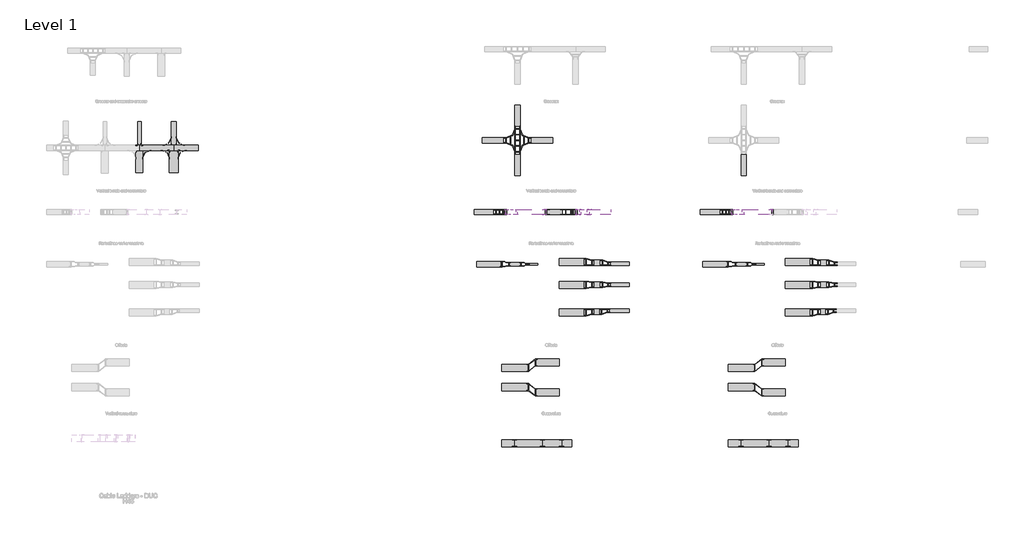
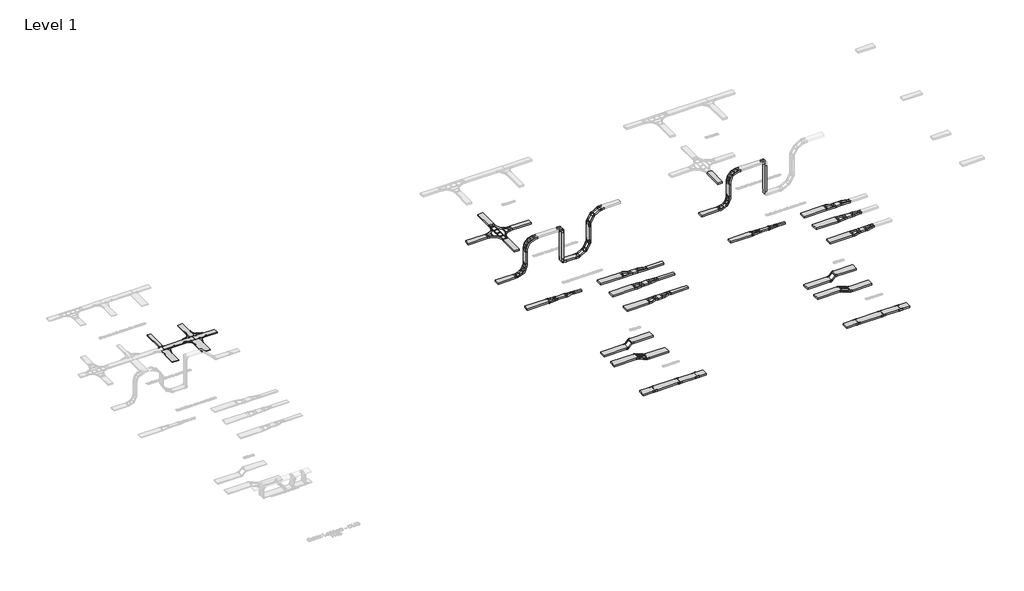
# One storey, part 15 of 106: 66 cable carrier fittings, 59 cable carrier segments.
"""IFC4 building model written with IfcOpenShell, lengths in millimetres."""

from ifc_helpers import new_model, si_unit, frame, origin, place, context, project, spatial, polyline, outline, extrude, transform, mapped, element, save
from components import cable_carrier_fitting_655502a1, cable_carrier_fitting_0f11f104, cable_carrier_fitting_a9217249, cable_carrier_fitting_d4fd6989, cable_carrier_fitting_737cec81, cable_carrier_fitting_2a48b0f8, cable_carrier_fitting_b442654d, cable_carrier_fitting_4f3da76f, cable_carrier_fitting_b51c3b06, cable_carrier_fitting_babf011b, cable_carrier_fitting_ac158406, cable_carrier_fitting_4c2027fa, cable_carrier_fitting_5ea65c1a, cable_carrier_fitting_8e776ff7, cable_carrier_fitting_f980dbfe, cable_carrier_fitting_f33f8219, cable_carrier_fitting_8b2eacbc, cable_carrier_fitting_82eef748, cable_carrier_fitting_c717f408, cable_carrier_fitting_2eae5a0e, cable_carrier_fitting_26a6f095, cable_carrier_fitting_3c9c408d, cable_carrier_fitting_4b9ec148, cable_carrier_fitting_75b1d624, cable_carrier_fitting_a95698cb, cable_carrier_fitting_566616c6

model = new_model("IFC4")

# Units and contexts
model_context = context("Model", 3, world=origin())
ifc_project = project(units=[si_unit("LENGTHUNIT", "METRE", prefix="MILLI")], contexts=[model_context])

# Site, building, storey
site = spatial("IfcSite", under=ifc_project)
building = spatial("IfcBuilding", under=site)
storey = spatial("IfcBuildingStorey", under=building, Name="Level 1", Elevation=0.0)

# Cable carrier fittings
placement = place(None, origin())
cable_carrier_fitting_shape = cable_carrier_fitting_655502a1(model_context)
element("IfcCableCarrierFitting", 1, ObjectType="BAKS_LD_CONN_Angle coupler bendable_LKU : LKUC_H45", at=placement, inside=storey, context=model_context, shape_type="MappedRepresentation", body=[
    mapped(cable_carrier_fitting_shape, transform((56950.9231102, 60020.7686574, 32.5), x_axis=(-1.0, 0.0, 0.0), y_axis=(0.0, -1.0, 0.0), z_axis=(0.0, 0.0, 1.0))),
])
element("IfcCableCarrierFitting", 2, ObjectType="BAKS_LD_CONN_Angle coupler bendable_LKU : LKUC_H45", at=placement, inside=storey, context=model_context, shape_type="MappedRepresentation", body=[
    mapped(cable_carrier_fitting_shape, transform((56750.9231102, 60020.7686574, 32.5), x_axis=(0.0, -1.0, 0.0), y_axis=(1.0, 0.0, 0.0), z_axis=(0.0, 0.0, 1.0))),
])
element("IfcCableCarrierFitting", 3, ObjectType="BAKS_LD_CONN_Angle coupler bendable_LKU : LKUC_H45", at=placement, inside=storey, context=model_context, shape_type="MappedRepresentation", body=[
    mapped(cable_carrier_fitting_shape, transform((58562.2849338, 59720.7686574, 32.5), x_axis=(1.0, 0.0, 0.0), y_axis=(0.0, 1.0, 0.0), z_axis=(0.0, 0.0, 1.0))),
])
element("IfcCableCarrierFitting", 4, ObjectType="BAKS_LD_CONN_Angle coupler bendable_LKU : LKUC_H45", at=placement, inside=storey, context=model_context, shape_type="MappedRepresentation", body=[
    mapped(cable_carrier_fitting_shape, transform((59062.2849338, 59720.7686574, 32.5), x_axis=(0.0, 1.0, 0.0), y_axis=(-1.0, 0.0, 0.0), z_axis=(0.0, 0.0, 1.0))),
])
element("IfcCableCarrierFitting", 5, ObjectType="BAKS_LD_CONN_Angle coupler bendable_LKU : LKUC_H45", at=placement, inside=storey, context=model_context, shape_type="MappedRepresentation", body=[
    mapped(cable_carrier_fitting_shape, transform((58962.2849338, 60020.7686574, 30.0), x_axis=(-1.0, 0.0, 0.0), y_axis=(0.0, -1.0, 0.0), z_axis=(0.0, 0.0, 1.0))),
])
cable_carrier_fitting_2_shape = cable_carrier_fitting_0f11f104(model_context)
element("IfcCableCarrierFitting", 6, ObjectType="BAKS_LD_CONN_Addon connector_LDDK : LDDKP", at=placement, inside=storey, context=model_context, shape_type="MappedRepresentation", body=[
    mapped(cable_carrier_fitting_2_shape, transform((58562.2849338, 59720.7686574, 55.0), x_axis=(1.0, 0.0, 0.0), y_axis=(0.0, 1.0, 0.0), z_axis=(0.0, 0.0, 1.0))),
])
element("IfcCableCarrierFitting", 7, ObjectType="BAKS_LD_CONN_Addon connector_LDDK : LDDKP", at=placement, inside=storey, context=model_context, shape_type="MappedRepresentation", body=[
    mapped(cable_carrier_fitting_2_shape, transform((58962.2849338, 60020.7686574, 55.0), x_axis=(-1.0, 0.0, 0.0), y_axis=(0.0, -1.0, 0.0), z_axis=(0.0, 0.0, 1.0))),
])
cable_carrier_fitting_3_shape = cable_carrier_fitting_a9217249(model_context)
element("IfcCableCarrierFitting", 8, ObjectType="BAKS_LD_CONN_Addon connector_LDDK : LDDKP", at=placement, inside=storey, context=model_context, shape_type="MappedRepresentation", body=[
    mapped(cable_carrier_fitting_3_shape, transform((57050.9231102, 59720.7686574, 55.0), x_axis=(-1.0, 0.0, 0.0), y_axis=(0.0, -1.0, 0.0), z_axis=(0.0, 0.0, 1.0))),
])
element("IfcCableCarrierFitting", 9, ObjectType="BAKS_LD_CONN_Addon connector_LDDK : LDDKP", at=placement, inside=storey, context=model_context, shape_type="MappedRepresentation", body=[
    mapped(cable_carrier_fitting_3_shape, transform((59062.2849338, 59720.7686574, 55.0), x_axis=(-1.0, 0.0, 0.0), y_axis=(0.0, -1.0, 0.0), z_axis=(0.0, 0.0, 1.0))),
])
element("IfcCableCarrierFitting", 10, ObjectType="BAKS_LD_CONN_Addon connector_LDDK : LDDKP", at=placement, inside=storey, context=model_context, shape_type="MappedRepresentation", body=[
    mapped(cable_carrier_fitting_3_shape, transform((58662.2849338, 60020.7686574, 55.0), x_axis=(1.0, 0.0, 0.0), y_axis=(0.0, 1.0, 0.0), z_axis=(0.0, 0.0, 1.0))),
])
cable_carrier_fitting_4_shape = cable_carrier_fitting_d4fd6989(model_context)
element("IfcCableCarrierFitting", 11, ObjectType="BAKS_LD_CONN_Angle coupler bendable_LKU : LKUC_H45", at=placement, inside=storey, context=model_context, shape_type="MappedRepresentation", body=[
    mapped(cable_carrier_fitting_4_shape, transform((57050.9231102, 59720.7686574, 30.0), x_axis=(-1.0, 0.0, 0.0), y_axis=(0.0, -1.0, 0.0), z_axis=(0.0, 0.0, 1.0))),
])
element("IfcCableCarrierFitting", 12, ObjectType="BAKS_LD_CONN_Angle coupler bendable_LKU : LKUC_H45", at=placement, inside=storey, context=model_context, shape_type="MappedRepresentation", body=[
    mapped(cable_carrier_fitting_4_shape, transform((58662.2849338, 60020.7686574, 30.0), x_axis=(1.0, 0.0, 0.0), y_axis=(0.0, 1.0, 0.0), z_axis=(0.0, 0.0, 1.0))),
])
cable_carrier_fitting_5_shape = cable_carrier_fitting_737cec81(model_context)
element("IfcCableCarrierFitting", 13, ObjectType="BAKS_LDLS_CONN_Straight connector_LSSU : LSSUC_H100", at=placement, inside=storey, context=model_context, shape_type="MappedRepresentation", body=[
    mapped(cable_carrier_fitting_5_shape, transform((78235.3508196, 42822.0684511, 55.0), x_axis=(1.0, 0.0, 0.0), y_axis=(0.0, 1.0, 0.0), z_axis=(0.0, 0.0, 1.0))),
])
element("IfcCableCarrierFitting", 14, ObjectType="BAKS_LDLS_CONN_Straight connector_LSSU : LSSUC_H100", at=placement, inside=storey, context=model_context, shape_type="MappedRepresentation", body=[
    mapped(cable_carrier_fitting_5_shape, transform((79822.8508196, 42822.0684511, 55.0), x_axis=(1.0, 0.0, 0.0), y_axis=(0.0, 1.0, 0.0), z_axis=(0.0, 0.0, 1.0))),
])
element("IfcCableCarrierFitting", 15, ObjectType="BAKS_LDLS_CONN_Straight connector_LSSU : LSSUC_H100", at=placement, inside=storey, context=model_context, shape_type="MappedRepresentation", body=[
    mapped(cable_carrier_fitting_5_shape, transform((80915.3508196, 42822.0684511, 55.0), x_axis=(1.0, 0.0, 0.0), y_axis=(0.0, 1.0, 0.0), z_axis=(0.0, 0.0, 1.0))),
])
element("IfcCableCarrierFitting", 16, ObjectType="BAKS_LDLS_CONN_Straight connector_LSSU : LSSUC_H100", at=placement, inside=storey, context=model_context, shape_type="MappedRepresentation", body=[
    mapped(cable_carrier_fitting_5_shape, transform((91135.3508196, 42822.0684511, 55.0), x_axis=(1.0, 0.0, 0.0), y_axis=(0.0, 1.0, 0.0), z_axis=(0.0, 0.0, 1.0))),
])
element("IfcCableCarrierFitting", 17, ObjectType="BAKS_LDLS_CONN_Straight connector_LSSU : LSSUC_H100", at=placement, inside=storey, context=model_context, shape_type="MappedRepresentation", body=[
    mapped(cable_carrier_fitting_5_shape, transform((92722.8508196, 42822.0684511, 55.0), x_axis=(1.0, 0.0, 0.0), y_axis=(0.0, 1.0, 0.0), z_axis=(0.0, 0.0, 1.0))),
])
element("IfcCableCarrierFitting", 18, ObjectType="BAKS_LDLS_CONN_Straight connector_LSSU : LSSUC_H100", at=placement, inside=storey, context=model_context, shape_type="MappedRepresentation", body=[
    mapped(cable_carrier_fitting_5_shape, transform((93815.3508196, 42822.0684511, 55.0), x_axis=(1.0, 0.0, 0.0), y_axis=(0.0, 1.0, 0.0), z_axis=(0.0, 0.0, 1.0))),
])
cable_carrier_fitting_6_shape = cable_carrier_fitting_2a48b0f8(model_context)
element("IfcCableCarrierFitting", 19, ObjectType="BAKS_LDLS_CONN_Straight connector_LSSU : LSSUC_H100", at=placement, inside=storey, context=model_context, shape_type="MappedRepresentation", body=[
    mapped(cable_carrier_fitting_6_shape, transform((78235.3508196, 43222.0684511, 55.0), x_axis=(1.0, 0.0, 0.0), y_axis=(0.0, 1.0, 0.0), z_axis=(0.0, 0.0, 1.0))),
])
element("IfcCableCarrierFitting", 20, ObjectType="BAKS_LDLS_CONN_Straight connector_LSSU : LSSUC_H100", at=placement, inside=storey, context=model_context, shape_type="MappedRepresentation", body=[
    mapped(cable_carrier_fitting_6_shape, transform((79822.8508196, 43222.0684511, 55.0), x_axis=(1.0, 0.0, 0.0), y_axis=(0.0, 1.0, 0.0), z_axis=(0.0, 0.0, 1.0))),
])
element("IfcCableCarrierFitting", 21, ObjectType="BAKS_LDLS_CONN_Straight connector_LSSU : LSSUC_H100", at=placement, inside=storey, context=model_context, shape_type="MappedRepresentation", body=[
    mapped(cable_carrier_fitting_6_shape, transform((80915.3508196, 43222.0684511, 55.0), x_axis=(1.0, 0.0, 0.0), y_axis=(0.0, 1.0, 0.0), z_axis=(0.0, 0.0, 1.0))),
])
element("IfcCableCarrierFitting", 22, ObjectType="BAKS_LDLS_CONN_Straight connector_LSSU : LSSUC_H100", at=placement, inside=storey, context=model_context, shape_type="MappedRepresentation", body=[
    mapped(cable_carrier_fitting_6_shape, transform((91135.3508196, 43222.0684511, 55.0), x_axis=(1.0, 0.0, 0.0), y_axis=(0.0, 1.0, 0.0), z_axis=(0.0, 0.0, 1.0))),
])
element("IfcCableCarrierFitting", 23, ObjectType="BAKS_LDLS_CONN_Straight connector_LSSU : LSSUC_H100", at=placement, inside=storey, context=model_context, shape_type="MappedRepresentation", body=[
    mapped(cable_carrier_fitting_6_shape, transform((92722.8508196, 43222.0684511, 55.0), x_axis=(1.0, 0.0, 0.0), y_axis=(0.0, 1.0, 0.0), z_axis=(0.0, 0.0, 1.0))),
])
element("IfcCableCarrierFitting", 24, ObjectType="BAKS_LDLS_CONN_Straight connector_LSSU : LSSUC_H100", at=placement, inside=storey, context=model_context, shape_type="MappedRepresentation", body=[
    mapped(cable_carrier_fitting_6_shape, transform((93815.3508196, 43222.0684511, 55.0), x_axis=(1.0, 0.0, 0.0), y_axis=(0.0, 1.0, 0.0), z_axis=(0.0, 0.0, 1.0))),
])
cable_carrier_fitting_7_shape = cable_carrier_fitting_b442654d(model_context)
element("IfcCableCarrierFitting", 25, ObjectType="BAKS_LDLS_CONN_Univarsal connector reduction_LUS : LUS_H100", at=placement, inside=storey, context=model_context, shape_type="MappedRepresentation", body=[
    mapped(cable_carrier_fitting_7_shape, transform((77409.3823889, 53231.6579459, 55.0), x_axis=(1.0, 0.0, 0.0), y_axis=(0.0, 1.0, 0.0), z_axis=(0.0, 0.0, 1.0))),
])
element("IfcCableCarrierFitting", 26, ObjectType="BAKS_LDLS_CONN_Univarsal connector reduction_LUS : LUS_H100", at=placement, inside=storey, context=model_context, shape_type="MappedRepresentation", body=[
    mapped(cable_carrier_fitting_7_shape, transform((90309.3823889, 53231.6579459, 55.0), x_axis=(1.0, 0.0, 0.0), y_axis=(0.0, 1.0, 0.0), z_axis=(0.0, 0.0, 1.0))),
])
cable_carrier_fitting_8_shape = cable_carrier_fitting_4f3da76f(model_context)
element("IfcCableCarrierFitting", 27, ObjectType="BAKS_LDLS_CROSS_Horizontal cross over_CZDS : CZDSP_H100", at=placement, inside=storey, context=model_context, shape_type="MappedRepresentation", body=[
    mapped(cable_carrier_fitting_8_shape, transform((78394.8605695, 60296.344482, 55.0), x_axis=(0.0, 1.0, 0.0), y_axis=(-1.0, 0.0, 0.0), z_axis=(0.0, 0.0, 1.0))),
])
cable_carrier_fitting_9_shape = cable_carrier_fitting_b51c3b06(model_context)
element("IfcCableCarrierFitting", 28, ObjectType="BAKS_LDLS_BEND_Vertical bend 90deg internal_LWDS : LWDSC_H100", at=placement, inside=storey, context=model_context, shape_type="MappedRepresentation", body=[
    mapped(cable_carrier_fitting_9_shape, transform((90625.1675038, 56206.9805429, 55.0), x_axis=(1.0, 0.0, 0.0), y_axis=(0.0, 0.0, 1.0), z_axis=(0.0, -1.0, 0.0))),
])
element("IfcCableCarrierFitting", 29, ObjectType="BAKS_LDLS_BEND_Vertical bend 90deg external_LZDS : LZDSC_H100", at=placement, inside=storey, context=model_context, shape_type="MappedRepresentation", body=[
    mapped(cable_carrier_fitting_9_shape, transform((90625.1675038, 56206.9805429, 2235.0), x_axis=(0.0, 0.0, 1.0), y_axis=(1.0, 0.0, 0.0), z_axis=(0.0, 1.0, 0.0))),
])
element("IfcCableCarrierFitting", 30, ObjectType="BAKS_LDLS_BEND_Vertical bend 90deg internal_LWDS : LWDSP_H100", at=placement, inside=storey, context=model_context, shape_type="MappedRepresentation", body=[
    mapped(cable_carrier_fitting_9_shape, transform((77725.1675038, 56206.9805429, 55.0), x_axis=(1.0, 0.0, 0.0), y_axis=(0.0, 0.0, 1.0), z_axis=(0.0, -1.0, 0.0))),
])
element("IfcCableCarrierFitting", 31, ObjectType="BAKS_LDLS_BEND_Vertical bend 90deg external_LZDS : LZDSP_H100", at=placement, inside=storey, context=model_context, shape_type="MappedRepresentation", body=[
    mapped(cable_carrier_fitting_9_shape, transform((77725.1675038, 56206.9805429, 2235.0), x_axis=(0.0, 0.0, 1.0), y_axis=(1.0, 0.0, 0.0), z_axis=(0.0, 1.0, 0.0))),
])
cable_carrier_fitting_10_shape = cable_carrier_fitting_babf011b(model_context)
element("IfcCableCarrierFitting", 32, ObjectType="BAKS_LDLS_BEND_Articulated connector_LGSU : LGSUP_H100", at=placement, inside=storey, context=model_context, shape_type="MappedRepresentation", body=[
    mapped(cable_carrier_fitting_10_shape, transform((80025.1675038, 56356.9805429, 2235.0), x_axis=(1.0, 0.0, 0.0), y_axis=(0.0, 0.0, -1.0), z_axis=(0.0, 1.0, 0.0))),
])
element("IfcCableCarrierFitting", 33, ObjectType="BAKS_LDLS_BEND_Articulated connector_LGSU : LGSUP_H100", at=placement, inside=storey, context=model_context, shape_type="MappedRepresentation", body=[
    mapped(cable_carrier_fitting_10_shape, transform((80025.1675038, 56056.9805429, 55.0), x_axis=(0.0, 0.0, -1.0), y_axis=(1.0, 0.0, 0.0), z_axis=(0.0, -1.0, 0.0))),
])
cable_carrier_fitting_11_shape = cable_carrier_fitting_ac158406(model_context)
element("IfcCableCarrierFitting", 34, ObjectType="BAKS_LDLS_BEND_Articulated connector_LGSU : LGSUP_H100", at=placement, inside=storey, context=model_context, shape_type="MappedRepresentation", body=[
    mapped(cable_carrier_fitting_11_shape, transform((80025.1675038, 56056.9805429, 2235.0), x_axis=(1.0, 0.0, 0.0), y_axis=(0.0, 0.0, 1.0), z_axis=(0.0, -1.0, 0.0))),
])
element("IfcCableCarrierFitting", 35, ObjectType="BAKS_LDLS_BEND_Articulated connector_LGSU : LGSUP_H100", at=placement, inside=storey, context=model_context, shape_type="MappedRepresentation", body=[
    mapped(cable_carrier_fitting_11_shape, transform((80025.1675038, 56356.9805429, 55.0), x_axis=(0.0, 0.0, -1.0), y_axis=(-1.0, 0.0, 0.0), z_axis=(0.0, 1.0, 0.0))),
])
cable_carrier_fitting_12_shape = cable_carrier_fitting_4c2027fa(model_context)
element("IfcCableCarrierFitting", 36, ObjectType="BAKS_LDLS_BEND_Articulated connector for LLDS_LGSU : LGSUP_H100", at=placement, inside=storey, context=model_context, shape_type="MappedRepresentation", body=[
    mapped(cable_carrier_fitting_12_shape, transform((81062.1548019, 56056.9805429, 55.0), x_axis=(1.0, 0.0, 0.0), y_axis=(0.0, 0.0, 1.0), z_axis=(0.0, -1.0, 0.0))),
])
element("IfcCableCarrierFitting", 37, ObjectType="BAKS_LDLS_BEND_Articulated connector for LLDS_LGSU : LGSUP_H100", at=placement, inside=storey, context=model_context, shape_type="MappedRepresentation", body=[
    mapped(cable_carrier_fitting_12_shape, transform((81745.1675038, 56356.9805429, 2053.6237578), x_axis=(0.0, 0.0, 1.0), y_axis=(1.0, 0.0, 0.0), z_axis=(0.0, 1.0, 0.0))),
])
cable_carrier_fitting_13_shape = cable_carrier_fitting_5ea65c1a(model_context)
element("IfcCableCarrierFitting", 38, ObjectType="BAKS_LDLS_BEND_Articulated connector for LLDS_LGSU : LGSUP_H100", at=placement, inside=storey, context=model_context, shape_type="MappedRepresentation", body=[
    mapped(cable_carrier_fitting_13_shape, transform((81745.1675038, 56056.9805429, 738.0127019), x_axis=(0.49999999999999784, 0.0, 0.8660254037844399), y_axis=(-0.8660254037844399, 0.0, 0.49999999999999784), z_axis=(0.0, -1.0, 0.0))),
])
element("IfcCableCarrierFitting", 39, ObjectType="BAKS_LDLS_BEND_Articulated connector for LLDS_LGSU : LGSUP_H100", at=placement, inside=storey, context=model_context, shape_type="MappedRepresentation", body=[
    mapped(cable_carrier_fitting_13_shape, transform((82428.1802057, 56356.9805429, 2736.6364597), x_axis=(0.8660254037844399, 0.0, 0.49999999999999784), y_axis=(0.49999999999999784, 0.0, -0.8660254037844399), z_axis=(0.0, 1.0, 0.0))),
])
cable_carrier_fitting_14_shape = cable_carrier_fitting_8e776ff7(model_context)
element("IfcCableCarrierFitting", 40, ObjectType="BAKS_LDLS_BEND_Articulated connector for LLDS_LGSU : LGSUP_H100", at=placement, inside=storey, context=model_context, shape_type="MappedRepresentation", body=[
    mapped(cable_carrier_fitting_14_shape, transform((81745.1675038, 56356.9805429, 738.0127019), x_axis=(0.4999999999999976, 0.0, 0.86602540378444), y_axis=(0.86602540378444, 0.0, -0.4999999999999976), z_axis=(0.0, 1.0, 0.0))),
])
element("IfcCableCarrierFitting", 41, ObjectType="BAKS_LDLS_BEND_Articulated connector for LLDS_LGSU : LGSUP_H100", at=placement, inside=storey, context=model_context, shape_type="MappedRepresentation", body=[
    mapped(cable_carrier_fitting_14_shape, transform((82428.1802057, 56056.9805429, 2736.6364597), x_axis=(0.86602540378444, 0.0, 0.4999999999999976), y_axis=(-0.4999999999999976, 0.0, 0.86602540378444), z_axis=(0.0, -1.0, 0.0))),
])
cable_carrier_fitting_15_shape = cable_carrier_fitting_f980dbfe(model_context)
element("IfcCableCarrierFitting", 42, ObjectType="BAKS_LDLS_BEND_Articulated connector for LLDS_LGSU : LGSUP_H100", at=placement, inside=storey, context=model_context, shape_type="MappedRepresentation", body=[
    mapped(cable_carrier_fitting_15_shape, transform((81062.1548019, 56356.9805429, 55.0), x_axis=(1.0, 0.0, 0.0), y_axis=(0.0, 0.0, -1.0), z_axis=(0.0, 1.0, 0.0))),
])
element("IfcCableCarrierFitting", 43, ObjectType="BAKS_LDLS_BEND_Articulated connector for LLDS_LGSU : LGSUP_H100", at=placement, inside=storey, context=model_context, shape_type="MappedRepresentation", body=[
    mapped(cable_carrier_fitting_15_shape, transform((81745.1675038, 56056.9805429, 2053.6237578), x_axis=(0.0, 0.0, 1.0), y_axis=(-1.0, 0.0, 0.0), z_axis=(0.0, -1.0, 0.0))),
])
cable_carrier_fitting_16_shape = cable_carrier_fitting_f33f8219(model_context)
element("IfcCableCarrierFitting", 44, ObjectType="BAKS_LDLS_BEND_Adjustable vertical bend element_ELDS : ELDSP_H100", at=placement, inside=storey, context=model_context, shape_type="MappedRepresentation", body=[
    mapped(cable_carrier_fitting_16_shape, transform((81062.1548019, 56206.9805429, 55.0), x_axis=(0.8660254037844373, 0.0, 0.5000000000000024), y_axis=(0.0, 1.0, 0.0), z_axis=(-0.5000000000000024, 0.0, 0.8660254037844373))),
])
element("IfcCableCarrierFitting", 45, ObjectType="BAKS_LDLS_BEND_Adjustable vertical bend element_ELDS : ELDSP_H100", at=placement, inside=storey, context=model_context, shape_type="MappedRepresentation", body=[
    mapped(cable_carrier_fitting_16_shape, transform((81745.1675038, 56206.9805429, 738.0127019), x_axis=(-0.49999999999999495, 0.0, -0.8660254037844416), y_axis=(0.0, -1.0, 0.0), z_axis=(-0.8660254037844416, 0.0, 0.49999999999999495))),
])
element("IfcCableCarrierFitting", 46, ObjectType="BAKS_LDLS_BEND_Adjustable vertical bend element_ELDS : ELDSP_H100", at=placement, inside=storey, context=model_context, shape_type="MappedRepresentation", body=[
    mapped(cable_carrier_fitting_16_shape, transform((81745.1675038, 56206.9805429, 2053.6237578), x_axis=(0.5000000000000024, 0.0, 0.8660254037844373), y_axis=(0.0, -1.0, 0.0), z_axis=(0.8660254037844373, 0.0, -0.5000000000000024))),
])
element("IfcCableCarrierFitting", 47, ObjectType="BAKS_LDLS_BEND_Adjustable vertical bend element_ELDS : ELDSP_H100", at=placement, inside=storey, context=model_context, shape_type="MappedRepresentation", body=[
    mapped(cable_carrier_fitting_16_shape, transform((82428.1802057, 56206.9805429, 2736.6364597), x_axis=(-0.8660254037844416, 0.0, -0.49999999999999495), y_axis=(0.0, 1.0, 0.0), z_axis=(0.49999999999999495, 0.0, -0.8660254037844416))),
])
cable_carrier_fitting_17_shape = cable_carrier_fitting_8b2eacbc(model_context)
element("IfcCableCarrierFitting", 48, ObjectType="BAKS_LDLS_CONN_Univarsal connector reduction_LUS : LUS_H100", at=placement, inside=storey, context=model_context, shape_type="MappedRepresentation", body=[
    mapped(cable_carrier_fitting_17_shape, transform((78509.3823889, 53231.6579459, 55.0), x_axis=(1.0, 0.0, 0.0), y_axis=(0.0, 1.0, 0.0), z_axis=(0.0, 0.0, 1.0))),
])
element("IfcCableCarrierFitting", 49, ObjectType="BAKS_LDLS_CONN_Univarsal connector reduction_LUS : LUS_H100", at=placement, inside=storey, context=model_context, shape_type="MappedRepresentation", body=[
    mapped(cable_carrier_fitting_17_shape, transform((91409.3823889, 53231.6579459, 55.0), x_axis=(1.0, 0.0, 0.0), y_axis=(0.0, 1.0, 0.0), z_axis=(0.0, 0.0, 1.0))),
])
cable_carrier_fitting_18_shape = cable_carrier_fitting_82eef748(model_context)
element("IfcCableCarrierFitting", 50, ObjectType="BAKS_LDLS_CONN_Univarsal connector offset_LUS : LUS_H100", at=placement, inside=storey, context=model_context, shape_type="MappedRepresentation", body=[
    mapped(cable_carrier_fitting_18_shape, transform((78995.3508196, 47320.3591551, 55.0), x_axis=(1.0, 0.0, 0.0), y_axis=(0.0, 1.0, 0.0), z_axis=(0.0, 0.0, 1.0))),
])
element("IfcCableCarrierFitting", 51, ObjectType="BAKS_LDLS_CONN_Univarsal connector offset_LUS : LUS_H100", at=placement, inside=storey, context=model_context, shape_type="MappedRepresentation", body=[
    mapped(cable_carrier_fitting_18_shape, transform((91895.3508196, 47320.3591551, 55.0), x_axis=(1.0, 0.0, 0.0), y_axis=(0.0, 1.0, 0.0), z_axis=(0.0, 0.0, 1.0))),
])
cable_carrier_fitting_19_shape = cable_carrier_fitting_c717f408(model_context)
element("IfcCableCarrierFitting", 52, ObjectType="BAKS_LDLS_CONN_Univarsal connector offset_LUS : LUS_H100", at=placement, inside=storey, context=model_context, shape_type="MappedRepresentation", body=[
    mapped(cable_carrier_fitting_19_shape, transform((78995.3508196, 46220.3591551, 55.0), x_axis=(1.0, 0.0, 0.0), y_axis=(0.0, 1.0, 0.0), z_axis=(0.0, 0.0, 1.0))),
])
element("IfcCableCarrierFitting", 53, ObjectType="BAKS_LDLS_CONN_Univarsal connector offset_LUS : LUS_H100", at=placement, inside=storey, context=model_context, shape_type="MappedRepresentation", body=[
    mapped(cable_carrier_fitting_19_shape, transform((91895.3508196, 46220.3591551, 55.0), x_axis=(1.0, 0.0, 0.0), y_axis=(0.0, 1.0, 0.0), z_axis=(0.0, 0.0, 1.0))),
])
cable_carrier_fitting_20_shape = cable_carrier_fitting_2eae5a0e(model_context)
element("IfcCableCarrierFitting", 54, ObjectType="BAKS_LDLS_BEND_Articulated connector_LGSU : LGSUC_H100", at=placement, inside=storey, context=model_context, shape_type="MappedRepresentation", body=[
    mapped(cable_carrier_fitting_20_shape, transform((92925.1675038, 56356.9805429, 2235.0), x_axis=(1.0, 0.0, 0.0), y_axis=(0.0, 0.0, -1.0), z_axis=(0.0, 1.0, 0.0))),
])
cable_carrier_fitting_21_shape = cable_carrier_fitting_26a6f095(model_context)
element("IfcCableCarrierFitting", 55, ObjectType="BAKS_LDLS_RED_Straight reducer_RDS : R(S/L/P)DSC_H100", at=placement, inside=storey, context=model_context, shape_type="MappedRepresentation", body=[
    mapped(cable_carrier_fitting_21_shape, transform((95996.5656993, 52057.8476348, 55.0), x_axis=(1.0, 0.0, 0.0), y_axis=(0.0, 1.0, 0.0), z_axis=(0.0, 0.0, 1.0))),
])
cable_carrier_fitting_22_shape = cable_carrier_fitting_3c9c408d(model_context)
element("IfcCableCarrierFitting", 56, ObjectType="BAKS_LDLS_RED_Straight reducer_RDS : R(S/L/P)DSC_H100", at=placement, inside=storey, context=model_context, shape_type="MappedRepresentation", body=[
    mapped(cable_carrier_fitting_22_shape, transform((95685.5222547, 52057.8476348, 55.0), x_axis=(-1.0, 0.0, 0.0), y_axis=(0.0, -1.0, 0.0), z_axis=(0.0, 0.0, 1.0))),
])
cable_carrier_fitting_23_shape = cable_carrier_fitting_4b9ec148(model_context)
element("IfcCableCarrierFitting", 57, ObjectType="BAKS_LDLS_RED_Straight reducer_RDS : R(S/L/P)DSC_H100", at=placement, inside=storey, context=model_context, shape_type="MappedRepresentation", body=[
    mapped(cable_carrier_fitting_23_shape, transform((95996.5656993, 53307.8476348, 55.0), x_axis=(1.0, 0.0, 0.0), y_axis=(0.0, 1.0, 0.0), z_axis=(0.0, 0.0, 1.0))),
])
cable_carrier_fitting_24_shape = cable_carrier_fitting_75b1d624(model_context)
element("IfcCableCarrierFitting", 58, ObjectType="BAKS_LDLS_RED_Straight reducer_RDS : R(S/L/P)DSC_H100", at=placement, inside=storey, context=model_context, shape_type="MappedRepresentation", body=[
    mapped(cable_carrier_fitting_24_shape, transform((95945.5222547, 50521.6579459, 55.0), x_axis=(1.0, 0.0, 0.0), y_axis=(0.0, 1.0, 0.0), z_axis=(0.0, 0.0, 1.0))),
])
cable_carrier_fitting_25_shape = cable_carrier_fitting_a95698cb(model_context)
element("IfcCableCarrierFitting", 59, ObjectType="BAKS_LDLS_RED_Straight reducer_RDS : R(S/L/P)DSC_H100", at=placement, inside=storey, context=model_context, shape_type="MappedRepresentation", body=[
    mapped(cable_carrier_fitting_25_shape, transform((95685.5222547, 53307.8476348, 55.0), x_axis=(-1.0, 0.0, 0.0), y_axis=(0.0, -1.0, 0.0), z_axis=(0.0, 0.0, 1.0))),
])
cable_carrier_fitting_26_shape = cable_carrier_fitting_566616c6(model_context)
element("IfcCableCarrierFitting", 60, ObjectType="BAKS_LDLS_RED_Straight reducer_RDS : R(S/L/P)DSC_H100", at=placement, inside=storey, context=model_context, shape_type="MappedRepresentation", body=[
    mapped(cable_carrier_fitting_26_shape, transform((95685.5222547, 50521.6579459, 55.0), x_axis=(-1.0, 0.0, 0.0), y_axis=(0.0, -1.0, 0.0), z_axis=(0.0, 0.0, 1.0))),
])
element("IfcCableCarrierFitting", 61, ObjectType="BAKS_LDLS_RED_Straight reducer_RDS : R(S/L/P)DSP_H100", at=placement, inside=storey, context=model_context, shape_type="MappedRepresentation", body=[
    mapped(cable_carrier_fitting_23_shape, transform((83096.5656993, 53307.8476348, 55.0), x_axis=(1.0, 0.0, 0.0), y_axis=(0.0, 1.0, 0.0), z_axis=(0.0, 0.0, 1.0))),
])
element("IfcCableCarrierFitting", 62, ObjectType="BAKS_LDLS_RED_Straight reducer_RDS : R(S/L/P)DSP_H100", at=placement, inside=storey, context=model_context, shape_type="MappedRepresentation", body=[
    mapped(cable_carrier_fitting_25_shape, transform((82785.5222547, 53307.8476348, 55.0), x_axis=(-1.0, 0.0, 0.0), y_axis=(0.0, -1.0, 0.0), z_axis=(0.0, 0.0, 1.0))),
])
element("IfcCableCarrierFitting", 63, ObjectType="BAKS_LDLS_RED_Straight reducer_RDS : R(S/L/P)DSP_H100", at=placement, inside=storey, context=model_context, shape_type="MappedRepresentation", body=[
    mapped(cable_carrier_fitting_21_shape, transform((83096.5656993, 52057.8476348, 55.0), x_axis=(1.0, 0.0, 0.0), y_axis=(0.0, 1.0, 0.0), z_axis=(0.0, 0.0, 1.0))),
])
element("IfcCableCarrierFitting", 64, ObjectType="BAKS_LDLS_RED_Straight reducer_RDS : R(S/L/P)DSP_H100", at=placement, inside=storey, context=model_context, shape_type="MappedRepresentation", body=[
    mapped(cable_carrier_fitting_22_shape, transform((82785.5222547, 52057.8476348, 55.0), x_axis=(-1.0, 0.0, 0.0), y_axis=(0.0, -1.0, 0.0), z_axis=(0.0, 0.0, 1.0))),
])
element("IfcCableCarrierFitting", 65, ObjectType="BAKS_LDLS_RED_Straight reducer_RDS : R(S/L/P)DSP_H100", at=placement, inside=storey, context=model_context, shape_type="MappedRepresentation", body=[
    mapped(cable_carrier_fitting_24_shape, transform((83045.5222547, 50521.6579459, 55.0), x_axis=(1.0, 0.0, 0.0), y_axis=(0.0, 1.0, 0.0), z_axis=(0.0, 0.0, 1.0))),
])
element("IfcCableCarrierFitting", 66, ObjectType="BAKS_LDLS_RED_Straight reducer_RDS : R(S/L/P)DSP_H100", at=placement, inside=storey, context=model_context, shape_type="MappedRepresentation", body=[
    mapped(cable_carrier_fitting_26_shape, transform((82785.5222547, 50521.6579459, 55.0), x_axis=(-1.0, 0.0, 0.0), y_axis=(0.0, -1.0, 0.0), z_axis=(0.0, 0.0, 1.0))),
])

# Cable carrier segments
element("IfcCableCarrierSegment", 67, ObjectType="BAKS - Ladder H45 (DKC)", at=placement, inside=storey, context=model_context, shape_type="SweptSolid", body=[
    extrude(outline(polyline([(56852.4231102, 59720.7686574), (56852.4231102, 60020.7686574), (58810.7849338, 60020.7686574), (58810.7849338, 59720.7686574), (56852.4231102, 59720.7686574)])), frame((0.0, 0.0, 32.5), z_axis=(0.0, 0.0, 1.0), x_axis=(1.0, 0.0, 0.0)), (0.0, 0.0, 1.0), 45.0),
])
element("IfcCableCarrierSegment", 68, ObjectType="BAKS - Ladder H45 (DKC)", at=placement, inside=storey, context=model_context, shape_type="SweptSolid", body=[
    extrude(outline(polyline([(56950.9231102, 60050.7686574), (56750.9231102, 60050.7686574), (56750.9231102, 61370.7686574), (56950.9231102, 61370.7686574), (56950.9231102, 60050.7686574)])), frame((0.0, 0.0, 32.5), z_axis=(0.0, 0.0, 1.0), x_axis=(1.0, 0.0, 0.0)), (0.0, 0.0, 1.0), 45.0),
])
element("IfcCableCarrierSegment", 69, ObjectType="BAKS - Ladder H45 (DKC)", at=placement, inside=storey, context=model_context, shape_type="SweptSolid", body=[
    extrude(outline(polyline([(56650.9231102, 59690.7686574), (57050.9231102, 59690.7686574), (57050.9231102, 58470.7686574), (56650.9231102, 58470.7686574), (56650.9231102, 59690.7686574)])), frame((0.0, 0.0, 32.5), z_axis=(0.0, 0.0, 1.0), x_axis=(1.0, 0.0, 0.0)), (0.0, 0.0, 1.0), 45.0),
])
element("IfcCableCarrierSegment", 70, ObjectType="BAKS - Ladder H45 (DKC)", at=placement, inside=storey, context=model_context, shape_type="SweptSolid", body=[
    extrude(outline(polyline([(58813.7849338, 59720.7686574), (58813.7849338, 60020.7686574), (60213.7849338, 60020.7686574), (60213.7849338, 59720.7686574), (58813.7849338, 59720.7686574)])), frame((0.0, 0.0, 32.5), z_axis=(0.0, 0.0, 1.0), x_axis=(1.0, 0.0, 0.0)), (0.0, 0.0, 1.0), 45.0),
])
element("IfcCableCarrierSegment", 71, ObjectType="BAKS - Ladder H45 (DKC)", at=placement, inside=storey, context=model_context, shape_type="SweptSolid", body=[
    extrude(outline(polyline([(58962.2849338, 60050.7686574), (58662.2849338, 60050.7686574), (58662.2849338, 61370.7686574), (58962.2849338, 61370.7686574), (58962.2849338, 60050.7686574)])), frame((0.0, 0.0, 32.5), z_axis=(0.0, 0.0, 1.0), x_axis=(1.0, 0.0, 0.0)), (0.0, 0.0, 1.0), 45.0),
])
element("IfcCableCarrierSegment", 72, ObjectType="BAKS - Ladder H45 (DKC)", at=placement, inside=storey, context=model_context, shape_type="SweptSolid", body=[
    extrude(outline(polyline([(58562.2849338, 59690.7686574), (59062.2849338, 59690.7686574), (59062.2849338, 58470.7686574), (58562.2849338, 58470.7686574), (58562.2849338, 59690.7686574)])), frame((0.0, 0.0, 32.5), z_axis=(0.0, 0.0, 1.0), x_axis=(1.0, 0.0, 0.0)), (0.0, 0.0, 1.0), 45.0),
])
element("IfcCableCarrierSegment", 73, ObjectType="BAKS - Ladder long span H100 (DSP)", at=placement, inside=storey, context=model_context, shape_type="SweptSolid", body=[
    extrude(outline(polyline([(76064.3823889, 53081.6579459), (76064.3823889, 53381.6579459), (77454.3823889, 53381.6579459), (77454.3823889, 53081.6579459), (76064.3823889, 53081.6579459)])), frame((0.0, 0.0, 5.0), z_axis=(0.0, 0.0, 1.0), x_axis=(1.0, 0.0, 0.0)), (0.0, 0.0, 1.0), 100.0),
])
element("IfcCableCarrierSegment", 74, ObjectType="BAKS - Ladder long span H100 (DSP)", at=placement, inside=storey, context=model_context, shape_type="SweptSolid", body=[
    extrude(outline(polyline([(77964.3823889, 53131.6579459), (77964.3823889, 53331.6579459), (78554.3823889, 53331.6579459), (78554.3823889, 53131.6579459), (77964.3823889, 53131.6579459)])), frame((0.0, 0.0, 5.0), z_axis=(0.0, 0.0, 1.0), x_axis=(1.0, 0.0, 0.0)), (0.0, 0.0, 1.0), 100.0),
])
element("IfcCableCarrierSegment", 75, ObjectType="BAKS - Ladder long span H100 (DSP)", at=placement, inside=storey, context=model_context, shape_type="SweptSolid", body=[
    extrude(outline(polyline([(79064.3823889, 53181.6579459), (79064.3823889, 53281.6579459), (79564.3823889, 53281.6579459), (79564.3823889, 53181.6579459), (79064.3823889, 53181.6579459)])), frame((0.0, 0.0, 5.0), z_axis=(0.0, 0.0, 1.0), x_axis=(1.0, 0.0, 0.0)), (0.0, 0.0, 1.0), 100.0),
])
element("IfcCableCarrierSegment", 76, ObjectType="BAKS - Ladder long span H100 (DSP)", at=placement, inside=storey, context=model_context, shape_type="SweptSolid", body=[
    extrude(outline(polyline([(77495.3508196, 47120.3591551), (77495.3508196, 47520.3591551), (78995.3508196, 47520.3591551), (78995.3508196, 47120.3591551), (77495.3508196, 47120.3591551)])), frame((0.0, 0.0, 5.0), z_axis=(0.0, 0.0, 1.0), x_axis=(1.0, 0.0, 0.0)), (0.0, 0.0, 1.0), 100.0),
])
element("IfcCableCarrierSegment", 77, ObjectType="BAKS - Ladder long span H100 (DSP)", at=placement, inside=storey, context=model_context, shape_type="SweptSolid", body=[
    extrude(outline(polyline([(79455.3508196, 47420.3591551), (79455.3508196, 47820.3591551), (80765.5222547, 47820.3591551), (80765.5222547, 47420.3591551), (79455.3508196, 47420.3591551)])), frame((0.0, 0.0, 5.0), z_axis=(0.0, 0.0, 1.0), x_axis=(1.0, 0.0, 0.0)), (0.0, 0.0, 1.0), 100.0),
])
element("IfcCableCarrierSegment", 78, ObjectType="BAKS - Ladder long span H100 (DSP)", at=placement, inside=storey, context=model_context, shape_type="SweptSolid", body=[
    extrude(outline(polyline([(77495.3508196, 46020.3591551), (77495.3508196, 46420.3591551), (78995.3508196, 46420.3591551), (78995.3508196, 46020.3591551), (77495.3508196, 46020.3591551)])), frame((0.0, 0.0, 5.0), z_axis=(0.0, 0.0, 1.0), x_axis=(1.0, 0.0, 0.0)), (0.0, 0.0, 1.0), 100.0),
])
element("IfcCableCarrierSegment", 79, ObjectType="BAKS - Ladder long span H100 (DSP)", at=placement, inside=storey, context=model_context, shape_type="SweptSolid", body=[
    extrude(outline(polyline([(79455.3508196, 45720.3591551), (79455.3508196, 46120.3591551), (80765.5222547, 46120.3591551), (80765.5222547, 45720.3591551), (79455.3508196, 45720.3591551)])), frame((0.0, 0.0, 5.0), z_axis=(0.0, 0.0, 1.0), x_axis=(1.0, 0.0, 0.0)), (0.0, 0.0, 1.0), 100.0),
])
element("IfcCableCarrierSegment", 80, ObjectType="BAKS - Ladder long span H100 (DSP)", at=placement, inside=storey, context=model_context, shape_type="SweptSolid", body=[
    extrude(outline(polyline([(79194.8605695, 60146.344482), (79194.8605695, 60446.344482), (80394.8605695, 60446.344482), (80394.8605695, 60146.344482), (79194.8605695, 60146.344482)])), frame((0.0, 0.0, 5.0), z_axis=(0.0, 0.0, 1.0), x_axis=(1.0, 0.0, 0.0)), (0.0, 0.0, 1.0), 100.0),
])
element("IfcCableCarrierSegment", 81, ObjectType="BAKS - Ladder long span H100 (DSP)", at=placement, inside=storey, context=model_context, shape_type="SweptSolid", body=[
    extrude(outline(polyline([(78244.8605695, 59496.344482), (78544.8605695, 59496.344482), (78544.8605695, 58296.344482), (78244.8605695, 58296.344482), (78244.8605695, 59496.344482)])), frame((0.0, 0.0, 5.0), z_axis=(0.0, 0.0, 1.0), x_axis=(1.0, 0.0, 0.0)), (0.0, 0.0, 1.0), 100.0),
])
element("IfcCableCarrierSegment", 82, ObjectType="BAKS - Ladder long span H100 (DSP)", at=placement, inside=storey, context=model_context, shape_type="SweptSolid", body=[
    extrude(outline(polyline([(78544.8605695, 61096.344482), (78244.8605695, 61096.344482), (78244.8605695, 62296.344482), (78544.8605695, 62296.344482), (78544.8605695, 61096.344482)])), frame((0.0, 0.0, 5.0), z_axis=(0.0, 0.0, 1.0), x_axis=(1.0, 0.0, 0.0)), (0.0, 0.0, 1.0), 100.0),
])
element("IfcCableCarrierSegment", 83, ObjectType="BAKS - Ladder long span H100 (DSP)", at=placement, inside=storey, context=model_context, shape_type="SweptSolid", body=[
    extrude(outline(polyline([(76394.8605695, 60146.344482), (76394.8605695, 60446.344482), (77594.8605695, 60446.344482), (77594.8605695, 60146.344482), (76394.8605695, 60146.344482)])), frame((0.0, 0.0, 5.0), z_axis=(0.0, 0.0, 1.0), x_axis=(1.0, 0.0, 0.0)), (0.0, 0.0, 1.0), 100.0),
])
element("IfcCableCarrierSegment", 84, ObjectType="BAKS - Ladder long span H100 (DSP)", at=placement, inside=storey, context=model_context, shape_type="SweptSolid", body=[
    extrude(outline(polyline([(75925.1675038, 56056.9805429), (75925.1675038, 56356.9805429), (77025.1675038, 56356.9805429), (77025.1675038, 56056.9805429), (75925.1675038, 56056.9805429)])), frame((0.0, 0.0, 5.0), z_axis=(0.0, 0.0, 1.0), x_axis=(1.0, 0.0, 0.0)), (0.0, 0.0, 1.0), 100.0),
])
element("IfcCableCarrierSegment", 85, ObjectType="BAKS - Ladder long span H100 (DSP)", at=placement, inside=storey, context=model_context, shape_type="SweptSolid", body=[
    extrude(outline(polyline([(77775.1675038, 56056.9805429), (77675.1675038, 56056.9805429), (77675.1675038, 56356.9805429), (77775.1675038, 56356.9805429), (77775.1675038, 56056.9805429)])), frame((0.0, 0.0, 755.0), z_axis=(0.0, 0.0, 1.0), x_axis=(1.0, 0.0, 0.0)), (0.0, 0.0, 1.0), 780.0),
])
element("IfcCableCarrierSegment", 86, ObjectType="BAKS - Ladder long span H100 (DSP)", at=placement, inside=storey, context=model_context, shape_type="SweptSolid", body=[
    extrude(outline(polyline([(78425.1675038, 56056.9805429), (78425.1675038, 56356.9805429), (80000.1675038, 56356.9805429), (80000.1675038, 56056.9805429), (78425.1675038, 56056.9805429)])), frame((0.0, 0.0, 2185.0), z_axis=(0.0, 0.0, 1.0), x_axis=(1.0, 0.0, 0.0)), (0.0, 0.0, 1.0), 100.0),
])
element("IfcCableCarrierSegment", 87, ObjectType="BAKS - Ladder long span H100 (DSP)", at=placement, inside=storey, context=model_context, shape_type="SweptSolid", body=[
    extrude(outline(polyline([(79975.1675038, 56056.9805429), (79975.1675038, 56356.9805429), (80075.1675038, 56356.9805429), (80075.1675038, 56056.9805429), (79975.1675038, 56056.9805429)])), frame((0.0, 0.0, 80.0), z_axis=(0.0, 0.0, 1.0), x_axis=(1.0, 0.0, 0.0)), (0.0, 0.0, 1.0), 2130.0),
])
element("IfcCableCarrierSegment", 88, ObjectType="BAKS - Ladder long span H100 (DSP)", at=placement, inside=storey, context=model_context, shape_type="SweptSolid", body=[
    extrude(outline(polyline([(80050.1675038, 56056.9805429), (80050.1675038, 56356.9805429), (80962.1548019, 56356.9805429), (80962.1548019, 56056.9805429), (80050.1675038, 56056.9805429)])), frame((0.0, 0.0, 5.0), z_axis=(0.0, 0.0, 1.0), x_axis=(1.0, 0.0, 0.0)), (0.0, 0.0, 1.0), 100.0),
])
element("IfcCableCarrierSegment", 89, ObjectType="BAKS - Ladder long span H100 (DSP)", at=placement, inside=storey, context=model_context, shape_type="SweptSolid", body=[
    extrude(outline(polyline([(81795.1675038, 56056.9805429), (81695.1675038, 56056.9805429), (81695.1675038, 56356.9805429), (81795.1675038, 56356.9805429), (81795.1675038, 56056.9805429)])), frame((0.0, 0.0, 838.0127019), z_axis=(0.0, 0.0, 1.0), x_axis=(1.0, 0.0, 0.0)), (0.0, 0.0, 1.0), 1115.6110559),
])
element("IfcCableCarrierSegment", 90, ObjectType="BAKS - Ladder long span H100 (DSP)", at=placement, inside=storey, context=model_context, shape_type="SweptSolid", body=[
    extrude(outline(polyline([(82528.1802057, 56056.9805429), (82528.1802057, 56356.9805429), (83705.1675038, 56356.9805429), (83705.1675038, 56056.9805429), (82528.1802057, 56056.9805429)])), frame((0.0, 0.0, 2686.6364597), z_axis=(0.0, 0.0, 1.0), x_axis=(1.0, 0.0, 0.0)), (0.0, 0.0, 1.0), 100.0),
])
element("IfcCableCarrierSegment", 91, ObjectType="BAKS - Ladder long span H100 (DSP)", at=placement, inside=storey, context=model_context, shape_type="SweptSolid", body=[
    extrude(outline(polyline([(83096.5656993, 53457.8476348), (83096.5656993, 53157.8476348), (82785.5222547, 53157.8476348), (82785.5222547, 53457.8476348), (83096.5656993, 53457.8476348)])), frame((0.0, 0.0, 5.0), z_axis=(0.0, 0.0, 1.0), x_axis=(1.0, 0.0, 0.0)), (0.0, 0.0, 1.0), 100.0),
])
element("IfcCableCarrierSegment", 92, ObjectType="BAKS - Ladder long span H100 (DSP)", at=placement, inside=storey, context=model_context, shape_type="SweptSolid", body=[
    extrude(outline(polyline([(84765.5222547, 53357.8476348), (84765.5222547, 53157.8476348), (83716.5656993, 53157.8476348), (83716.5656993, 53357.8476348), (84765.5222547, 53357.8476348)])), frame((0.0, 0.0, 5.0), z_axis=(0.0, 0.0, 1.0), x_axis=(1.0, 0.0, 0.0)), (0.0, 0.0, 1.0), 100.0),
])
element("IfcCableCarrierSegment", 93, ObjectType="BAKS - Ladder long span H100 (DSP)", at=placement, inside=storey, context=model_context, shape_type="SweptSolid", body=[
    extrude(outline(polyline([(80765.5222547, 53157.8476348), (80765.5222547, 53557.8476348), (82165.5222547, 53557.8476348), (82165.5222547, 53157.8476348), (80765.5222547, 53157.8476348)])), frame((0.0, 0.0, 5.0), z_axis=(0.0, 0.0, 1.0), x_axis=(1.0, 0.0, 0.0)), (0.0, 0.0, 1.0), 100.0),
])
element("IfcCableCarrierSegment", 94, ObjectType="BAKS - Ladder long span H100 (DSP)", at=placement, inside=storey, context=model_context, shape_type="SweptSolid", body=[
    extrude(outline(polyline([(83096.5656993, 52207.8476348), (83096.5656993, 51907.8476348), (82785.5222547, 51907.8476348), (82785.5222547, 52207.8476348), (83096.5656993, 52207.8476348)])), frame((0.0, 0.0, 5.0), z_axis=(0.0, 0.0, 1.0), x_axis=(1.0, 0.0, 0.0)), (0.0, 0.0, 1.0), 100.0),
])
element("IfcCableCarrierSegment", 95, ObjectType="BAKS - Ladder long span H100 (DSP)", at=placement, inside=storey, context=model_context, shape_type="SweptSolid", body=[
    extrude(outline(polyline([(84765.5222547, 52157.8476348), (84765.5222547, 51957.8476348), (83716.5656993, 51957.8476348), (83716.5656993, 52157.8476348), (84765.5222547, 52157.8476348)])), frame((0.0, 0.0, 5.0), z_axis=(0.0, 0.0, 1.0), x_axis=(1.0, 0.0, 0.0)), (0.0, 0.0, 1.0), 100.0),
])
element("IfcCableCarrierSegment", 96, ObjectType="BAKS - Ladder long span H100 (DSP)", at=placement, inside=storey, context=model_context, shape_type="SweptSolid", body=[
    extrude(outline(polyline([(80765.5222547, 51857.8476348), (80765.5222547, 52257.8476348), (82165.5222547, 52257.8476348), (82165.5222547, 51857.8476348), (80765.5222547, 51857.8476348)])), frame((0.0, 0.0, 5.0), z_axis=(0.0, 0.0, 1.0), x_axis=(1.0, 0.0, 0.0)), (0.0, 0.0, 1.0), 100.0),
])
element("IfcCableCarrierSegment", 97, ObjectType="BAKS - Ladder long span H100 (DSP)", at=placement, inside=storey, context=model_context, shape_type="SweptSolid", body=[
    extrude(outline(polyline([(83045.5222547, 50671.6579459), (83045.5222547, 50371.6579459), (82785.5222547, 50371.6579459), (82785.5222547, 50671.6579459), (83045.5222547, 50671.6579459)])), frame((0.0, 0.0, 5.0), z_axis=(0.0, 0.0, 1.0), x_axis=(1.0, 0.0, 0.0)), (0.0, 0.0, 1.0), 100.0),
])
element("IfcCableCarrierSegment", 98, ObjectType="BAKS - Ladder long span H100 (DSP)", at=placement, inside=storey, context=model_context, shape_type="SweptSolid", body=[
    extrude(outline(polyline([(80765.5222547, 50271.6579459), (80765.5222547, 50671.6579459), (82165.5222547, 50671.6579459), (82165.5222547, 50271.6579459), (80765.5222547, 50271.6579459)])), frame((0.0, 0.0, 5.0), z_axis=(0.0, 0.0, 1.0), x_axis=(1.0, 0.0, 0.0)), (0.0, 0.0, 1.0), 100.0),
])
element("IfcCableCarrierSegment", 99, ObjectType="BAKS - Ladder long span H100 (DSP)", at=placement, inside=storey, context=model_context, shape_type="SweptSolid", body=[
    extrude(outline(polyline([(84765.5222547, 50671.6579459), (84765.5222547, 50471.6579459), (83665.5222547, 50471.6579459), (83665.5222547, 50671.6579459), (84765.5222547, 50671.6579459)])), frame((0.0, 0.0, 5.0), z_axis=(0.0, 0.0, 1.0), x_axis=(1.0, 0.0, 0.0)), (0.0, 0.0, 1.0), 100.0),
])
element("IfcCableCarrierSegment", 100, ObjectType="BAKS - Ladder long span H100 (DSP)", at=placement, inside=storey, context=model_context, shape_type="SweptSolid", body=[
    extrude(outline(polyline([(80922.8508196, 42822.0684511), (80922.8508196, 43222.0684511), (81495.3508196, 43222.0684511), (81495.3508196, 42822.0684511), (80922.8508196, 42822.0684511)])), frame((0.0, 0.0, 5.0), z_axis=(0.0, 0.0, 1.0), x_axis=(1.0, 0.0, 0.0)), (0.0, 0.0, 1.0), 100.0),
])
element("IfcCableCarrierSegment", 101, ObjectType="BAKS - Ladder long span H100 (DSP)", at=placement, inside=storey, context=model_context, shape_type="SweptSolid", body=[
    extrude(outline(polyline([(77495.3508196, 42822.0684511), (77495.3508196, 43222.0684511), (78227.8508196, 43222.0684511), (78227.8508196, 42822.0684511), (77495.3508196, 42822.0684511)])), frame((0.0, 0.0, 5.0), z_axis=(0.0, 0.0, 1.0), x_axis=(1.0, 0.0, 0.0)), (0.0, 0.0, 1.0), 100.0),
])
element("IfcCableCarrierSegment", 102, ObjectType="BAKS - Ladder long span H100 (DSP)", at=placement, inside=storey, context=model_context, shape_type="SweptSolid", body=[
    extrude(outline(polyline([(78242.8508196, 42822.0684511), (78242.8508196, 43222.0684511), (79815.3508196, 43222.0684511), (79815.3508196, 42822.0684511), (78242.8508196, 42822.0684511)])), frame((0.0, 0.0, 5.0), z_axis=(0.0, 0.0, 1.0), x_axis=(1.0, 0.0, 0.0)), (0.0, 0.0, 1.0), 100.0),
])
element("IfcCableCarrierSegment", 103, ObjectType="BAKS - Ladder long span H100 (DSP)", at=placement, inside=storey, context=model_context, shape_type="SweptSolid", body=[
    extrude(outline(polyline([(79830.3508196, 42822.0684511), (79830.3508196, 43222.0684511), (80907.8508196, 43222.0684511), (80907.8508196, 42822.0684511), (79830.3508196, 42822.0684511)])), frame((0.0, 0.0, 5.0), z_axis=(0.0, 0.0, 1.0), x_axis=(1.0, 0.0, 0.0)), (0.0, 0.0, 1.0), 100.0),
])
element("IfcCableCarrierSegment", 104, ObjectType="BAKS - Ladder long span H100 (DSC)", at=placement, inside=storey, context=model_context, shape_type="SweptSolid", body=[
    extrude(outline(polyline([(88964.3823889, 53081.6579459), (88964.3823889, 53381.6579459), (90354.3823889, 53381.6579459), (90354.3823889, 53081.6579459), (88964.3823889, 53081.6579459)])), frame((0.0, 0.0, 5.0), z_axis=(0.0, 0.0, 1.0), x_axis=(1.0, 0.0, 0.0)), (0.0, 0.0, 1.0), 100.0),
])
element("IfcCableCarrierSegment", 105, ObjectType="BAKS - Ladder long span H100 (DSC)", at=placement, inside=storey, context=model_context, shape_type="SweptSolid", body=[
    extrude(outline(polyline([(90864.3823889, 53131.6579459), (90864.3823889, 53331.6579459), (91454.3823889, 53331.6579459), (91454.3823889, 53131.6579459), (90864.3823889, 53131.6579459)])), frame((0.0, 0.0, 5.0), z_axis=(0.0, 0.0, 1.0), x_axis=(1.0, 0.0, 0.0)), (0.0, 0.0, 1.0), 100.0),
])
element("IfcCableCarrierSegment", 106, ObjectType="BAKS - Ladder long span H100 (DSC)", at=placement, inside=storey, context=model_context, shape_type="SweptSolid", body=[
    extrude(outline(polyline([(91964.3823889, 53181.6579459), (91964.3823889, 53281.6579459), (92464.3823889, 53281.6579459), (92464.3823889, 53181.6579459), (91964.3823889, 53181.6579459)])), frame((0.0, 0.0, 5.0), z_axis=(0.0, 0.0, 1.0), x_axis=(1.0, 0.0, 0.0)), (0.0, 0.0, 1.0), 100.0),
])
element("IfcCableCarrierSegment", 107, ObjectType="BAKS - Ladder long span H100 (DSP)", at=placement, inside=storey, context=model_context, shape_type="SweptSolid", body=[
    extrude(outline(polyline([(90395.3508196, 47120.3591551), (90395.3508196, 47520.3591551), (91895.3508196, 47520.3591551), (91895.3508196, 47120.3591551), (90395.3508196, 47120.3591551)])), frame((0.0, 0.0, 5.0), z_axis=(0.0, 0.0, 1.0), x_axis=(1.0, 0.0, 0.0)), (0.0, 0.0, 1.0), 100.0),
])
element("IfcCableCarrierSegment", 108, ObjectType="BAKS - Ladder long span H100 (DSP)", at=placement, inside=storey, context=model_context, shape_type="SweptSolid", body=[
    extrude(outline(polyline([(92355.3508196, 47420.3591551), (92355.3508196, 47820.3591551), (93665.5222547, 47820.3591551), (93665.5222547, 47420.3591551), (92355.3508196, 47420.3591551)])), frame((0.0, 0.0, 5.0), z_axis=(0.0, 0.0, 1.0), x_axis=(1.0, 0.0, 0.0)), (0.0, 0.0, 1.0), 100.0),
])
element("IfcCableCarrierSegment", 109, ObjectType="BAKS - Ladder long span H100 (DSP)", at=placement, inside=storey, context=model_context, shape_type="SweptSolid", body=[
    extrude(outline(polyline([(90395.3508196, 46020.3591551), (90395.3508196, 46420.3591551), (91895.3508196, 46420.3591551), (91895.3508196, 46020.3591551), (90395.3508196, 46020.3591551)])), frame((0.0, 0.0, 5.0), z_axis=(0.0, 0.0, 1.0), x_axis=(1.0, 0.0, 0.0)), (0.0, 0.0, 1.0), 100.0),
])
element("IfcCableCarrierSegment", 110, ObjectType="BAKS - Ladder long span H100 (DSP)", at=placement, inside=storey, context=model_context, shape_type="SweptSolid", body=[
    extrude(outline(polyline([(92355.3508196, 45720.3591551), (92355.3508196, 46120.3591551), (93665.5222547, 46120.3591551), (93665.5222547, 45720.3591551), (92355.3508196, 45720.3591551)])), frame((0.0, 0.0, 5.0), z_axis=(0.0, 0.0, 1.0), x_axis=(1.0, 0.0, 0.0)), (0.0, 0.0, 1.0), 100.0),
])
element("IfcCableCarrierSegment", 111, ObjectType="BAKS - Ladder long span H100 (DSP)", at=placement, inside=storey, context=model_context, shape_type="SweptSolid", body=[
    extrude(outline(polyline([(91144.8605695, 59496.344482), (91444.8605695, 59496.344482), (91444.8605695, 58296.344482), (91144.8605695, 58296.344482), (91144.8605695, 59496.344482)])), frame((0.0, 0.0, 5.0), z_axis=(0.0, 0.0, 1.0), x_axis=(1.0, 0.0, 0.0)), (0.0, 0.0, 1.0), 100.0),
])
element("IfcCableCarrierSegment", 112, ObjectType="BAKS - Ladder long span H100 (DSP)", at=placement, inside=storey, context=model_context, shape_type="SweptSolid", body=[
    extrude(outline(polyline([(88825.1675038, 56056.9805429), (88825.1675038, 56356.9805429), (89925.1675038, 56356.9805429), (89925.1675038, 56056.9805429), (88825.1675038, 56056.9805429)])), frame((0.0, 0.0, 5.0), z_axis=(0.0, 0.0, 1.0), x_axis=(1.0, 0.0, 0.0)), (0.0, 0.0, 1.0), 100.0),
])
element("IfcCableCarrierSegment", 113, ObjectType="BAKS - Ladder long span H100 (DSP)", at=placement, inside=storey, context=model_context, shape_type="SweptSolid", body=[
    extrude(outline(polyline([(90675.1675038, 56056.9805429), (90575.1675038, 56056.9805429), (90575.1675038, 56356.9805429), (90675.1675038, 56356.9805429), (90675.1675038, 56056.9805429)])), frame((0.0, 0.0, 755.0), z_axis=(0.0, 0.0, 1.0), x_axis=(1.0, 0.0, 0.0)), (0.0, 0.0, 1.0), 780.0),
])
element("IfcCableCarrierSegment", 114, ObjectType="BAKS - Ladder long span H100 (DSP)", at=placement, inside=storey, context=model_context, shape_type="SweptSolid", body=[
    extrude(outline(polyline([(91325.1675038, 56056.9805429), (91325.1675038, 56356.9805429), (92900.1675038, 56356.9805429), (92900.1675038, 56056.9805429), (91325.1675038, 56056.9805429)])), frame((0.0, 0.0, 2185.0), z_axis=(0.0, 0.0, 1.0), x_axis=(1.0, 0.0, 0.0)), (0.0, 0.0, 1.0), 100.0),
])
element("IfcCableCarrierSegment", 115, ObjectType="BAKS - Ladder long span H100 (DSP)", at=placement, inside=storey, context=model_context, shape_type="SweptSolid", body=[
    extrude(outline(polyline([(92875.1675038, 56056.9805429), (92875.1675038, 56356.9805429), (92975.1675038, 56356.9805429), (92975.1675038, 56056.9805429), (92875.1675038, 56056.9805429)])), frame((0.0, 0.0, 80.0), z_axis=(0.0, 0.0, 1.0), x_axis=(1.0, 0.0, 0.0)), (0.0, 0.0, 1.0), 2130.0),
])
element("IfcCableCarrierSegment", 116, ObjectType="BAKS - Ladder long span H100 (DSC)", at=placement, inside=storey, context=model_context, shape_type="SweptSolid", body=[
    extrude(outline(polyline([(95996.5656993, 53457.8476348), (95996.5656993, 53157.8476348), (95685.5222547, 53157.8476348), (95685.5222547, 53457.8476348), (95996.5656993, 53457.8476348)])), frame((0.0, 0.0, 5.0), z_axis=(0.0, 0.0, 1.0), x_axis=(1.0, 0.0, 0.0)), (0.0, 0.0, 1.0), 100.0),
])
element("IfcCableCarrierSegment", 117, ObjectType="BAKS - Ladder long span H100 (DSC)", at=placement, inside=storey, context=model_context, shape_type="SweptSolid", body=[
    extrude(outline(polyline([(93665.5222547, 53157.8476348), (93665.5222547, 53557.8476348), (95065.5222547, 53557.8476348), (95065.5222547, 53157.8476348), (93665.5222547, 53157.8476348)])), frame((0.0, 0.0, 5.0), z_axis=(0.0, 0.0, 1.0), x_axis=(1.0, 0.0, 0.0)), (0.0, 0.0, 1.0), 100.0),
])
element("IfcCableCarrierSegment", 118, ObjectType="BAKS - Ladder long span H100 (DSC)", at=placement, inside=storey, context=model_context, shape_type="SweptSolid", body=[
    extrude(outline(polyline([(95996.5656993, 52207.8476348), (95996.5656993, 51907.8476348), (95685.5222547, 51907.8476348), (95685.5222547, 52207.8476348), (95996.5656993, 52207.8476348)])), frame((0.0, 0.0, 5.0), z_axis=(0.0, 0.0, 1.0), x_axis=(1.0, 0.0, 0.0)), (0.0, 0.0, 1.0), 100.0),
])
element("IfcCableCarrierSegment", 119, ObjectType="BAKS - Ladder long span H100 (DSC)", at=placement, inside=storey, context=model_context, shape_type="SweptSolid", body=[
    extrude(outline(polyline([(93665.5222547, 51857.8476348), (93665.5222547, 52257.8476348), (95065.5222547, 52257.8476348), (95065.5222547, 51857.8476348), (93665.5222547, 51857.8476348)])), frame((0.0, 0.0, 5.0), z_axis=(0.0, 0.0, 1.0), x_axis=(1.0, 0.0, 0.0)), (0.0, 0.0, 1.0), 100.0),
])
element("IfcCableCarrierSegment", 120, ObjectType="BAKS - Ladder long span H100 (DSC)", at=placement, inside=storey, context=model_context, shape_type="SweptSolid", body=[
    extrude(outline(polyline([(95945.5222547, 50671.6579459), (95945.5222547, 50371.6579459), (95685.5222547, 50371.6579459), (95685.5222547, 50671.6579459), (95945.5222547, 50671.6579459)])), frame((0.0, 0.0, 5.0), z_axis=(0.0, 0.0, 1.0), x_axis=(1.0, 0.0, 0.0)), (0.0, 0.0, 1.0), 100.0),
])
element("IfcCableCarrierSegment", 121, ObjectType="BAKS - Ladder long span H100 (DSC)", at=placement, inside=storey, context=model_context, shape_type="SweptSolid", body=[
    extrude(outline(polyline([(93665.5222547, 50271.6579459), (93665.5222547, 50671.6579459), (95065.5222547, 50671.6579459), (95065.5222547, 50271.6579459), (93665.5222547, 50271.6579459)])), frame((0.0, 0.0, 5.0), z_axis=(0.0, 0.0, 1.0), x_axis=(1.0, 0.0, 0.0)), (0.0, 0.0, 1.0), 100.0),
])
element("IfcCableCarrierSegment", 122, ObjectType="BAKS - Ladder long span H100 (DSP)", at=placement, inside=storey, context=model_context, shape_type="SweptSolid", body=[
    extrude(outline(polyline([(93822.8508196, 42822.0684511), (93822.8508196, 43222.0684511), (94395.3508196, 43222.0684511), (94395.3508196, 42822.0684511), (93822.8508196, 42822.0684511)])), frame((0.0, 0.0, 5.0), z_axis=(0.0, 0.0, 1.0), x_axis=(1.0, 0.0, 0.0)), (0.0, 0.0, 1.0), 100.0),
])
element("IfcCableCarrierSegment", 123, ObjectType="BAKS - Ladder long span H100 (DSP)", at=placement, inside=storey, context=model_context, shape_type="SweptSolid", body=[
    extrude(outline(polyline([(90395.3508196, 42822.0684511), (90395.3508196, 43222.0684511), (91127.8508196, 43222.0684511), (91127.8508196, 42822.0684511), (90395.3508196, 42822.0684511)])), frame((0.0, 0.0, 5.0), z_axis=(0.0, 0.0, 1.0), x_axis=(1.0, 0.0, 0.0)), (0.0, 0.0, 1.0), 100.0),
])
element("IfcCableCarrierSegment", 124, ObjectType="BAKS - Ladder long span H100 (DSP)", at=placement, inside=storey, context=model_context, shape_type="SweptSolid", body=[
    extrude(outline(polyline([(91142.8508196, 42822.0684511), (91142.8508196, 43222.0684511), (92715.3508196, 43222.0684511), (92715.3508196, 42822.0684511), (91142.8508196, 42822.0684511)])), frame((0.0, 0.0, 5.0), z_axis=(0.0, 0.0, 1.0), x_axis=(1.0, 0.0, 0.0)), (0.0, 0.0, 1.0), 100.0),
])
element("IfcCableCarrierSegment", 125, ObjectType="BAKS - Ladder long span H100 (DSP)", at=placement, inside=storey, context=model_context, shape_type="SweptSolid", body=[
    extrude(outline(polyline([(92730.3508196, 42822.0684511), (92730.3508196, 43222.0684511), (93807.8508196, 43222.0684511), (93807.8508196, 42822.0684511), (92730.3508196, 42822.0684511)])), frame((0.0, 0.0, 5.0), z_axis=(0.0, 0.0, 1.0), x_axis=(1.0, 0.0, 0.0)), (0.0, 0.0, 1.0), 100.0),
])

save(model, "model.ifc")
